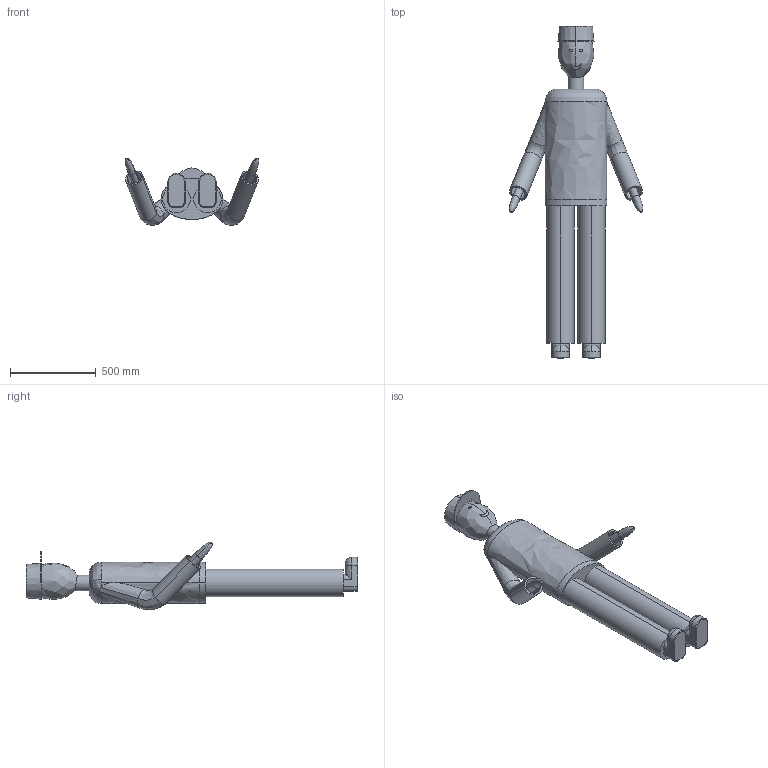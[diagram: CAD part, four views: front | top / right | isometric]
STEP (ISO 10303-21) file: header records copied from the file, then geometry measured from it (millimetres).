
FILE_DESCRIPTION (( 'STEP AP214' ), '1' );
FILE_NAME ('arbeiter.STEP', '2009-02-24T08:09:33', ( 'Andreas' ), ( '' ), 'SwSTEP 2.0', 'SolidWorks 2008', '' );
FILE_SCHEMA (( 'AUTOMOTIVE_DESIGN' ));
Length unit declared in the file: millimetre
Products named in the file (1): arbeiter
Bounding box: 777.59 x 1932 x 392.11 mm (x, y, z)
Volume: 98328712.6 mm3; surface area: 2508546.8 mm2
Topology: 1 solids, 1 shells, 120 faces, 287 edges, 179 vertices
Faces by surface type: bspline 39, cylinder 36, plane 33, torus 10, cone 2
Entity records: 10440 total; most frequent: CARTESIAN_POINT 7249, ORIENTED_EDGE 566, DIRECTION 419, EDGE_CURVE 283, VERTEX_POINT 179, AXIS2_PLACEMENT_3D 162, EDGE_LOOP 134, ADVANCED_FACE 120
